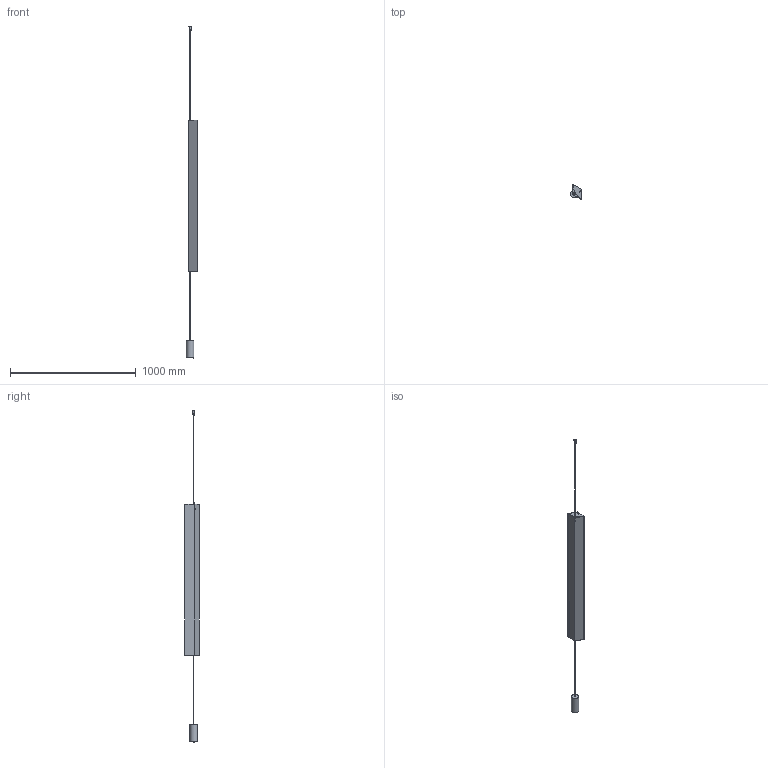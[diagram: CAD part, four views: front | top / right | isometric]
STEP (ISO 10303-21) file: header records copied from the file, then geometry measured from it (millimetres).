
FILE_DESCRIPTION(/* description */ (''),/* implementation_level */ '2;1');
FILE_NAME(/* name */ 'STRIPE FLOOR-CEILING 120X8.stp',/* time_stamp */ '2025-03-05T08:12:00+01:00',/* author */ ('marco.prandina'),/* organization */ (''),/* preprocessor_version */ 'ST-DEVELOPER v20',/* originating_system */ 'Autodesk Inventor 2025',/* authorisation */ '');
FILE_SCHEMA (('AUTOMOTIVE_DESIGN { 1 0 10303 214 3 1 1 }'));
Length unit declared in the file: millimetre
Products named in the file (22): 503C100-A; 503C005; Z0023; Z0026; Z0024; 0503SC108_002; 0503SC108_001; RONDELLA ACC ZINC PIANA M4 Ø10 EST Ø5.5 INT; 503C001; 503C001_001-A; 503C001_002-A; 503C001_003; 503C001_004; 503C001_007-A; PERNO FILETTATO A SALDARE M4X8; B002; B001; 503C002-D; 503C011; Z0025; DADO 4MA; DADO M8x1 H2
Assembly tree (22 placements, depth 3):
  503C100-A
    503C005
    Z0023
    Z0026
    Z0024  x2
      0503SC108_002
      0503SC108_001
    RONDELLA ACC ZINC PIANA M4 Ø10 EST Ø5.5 INT
    503C001
      503C001_001-A
      503C001_002-A
      503C001_003
      503C001_004
      503C001_007-A
      PERNO FILETTATO A SALDARE M4X8
    B002
    B001
    503C002-D
    503C011
    Z0025
    DADO 4MA
    DADO M8x1 H2
Bounding box: 89.69 x 118.96 x 2639.5 mm (x, y, z)
Volume: 856175.3 mm3; surface area: 1188079.2 mm2
Topology: 22 solids, 22 shells, 1622 faces, 4083 edges, 2520 vertices
Faces by surface type: plane 953, cylinder 356, cone 301, torus 8, sphere 3, bspline 1
Full cylindrical faces by diameter (mm): 0.65 x1, 2 x1, 2.05 x1, 3 x3, 3.242 x1, 3.3 x2, 4 x2, 4.2 x1, 4.7 x1, 5 x1, 5.1 x2, 5.5 x1, 5.917 x1, 6 x4, 6.917 x1, 7 x2, 7.6 x2, 7.8 x2, 8 x1, 8.1 x1, 9 x2, 10 x3, 11.5 x2, 12 x1, 13 x4, 16 x1, 20 x2, 22 x1, 56 x1, 59 x1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
Entity records: 32714 total; most frequent: CARTESIAN_POINT 7891, ORIENTED_EDGE 5520, DIRECTION 4756, EDGE_CURVE 2760, AXIS2_PLACEMENT_3D 1866, VERTEX_POINT 1726, EDGE_LOOP 1130, FACE_OUTER_BOUND 1086
